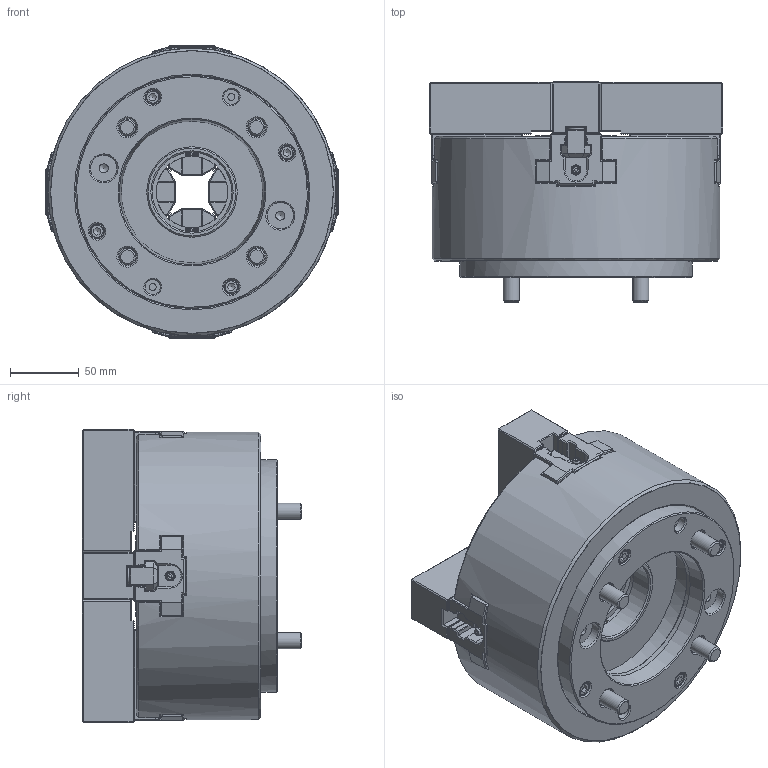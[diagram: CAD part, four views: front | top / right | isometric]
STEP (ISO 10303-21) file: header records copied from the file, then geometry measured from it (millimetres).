
FILE_DESCRIPTION(/* description */ (''),/* implementation_level */ '2;1');
FILE_NAME(/* name */ '\\Itserver\個人資料夾\柯玫如\8.網頁3D討論\1.中空油壓系列\1-1中空油壓夾頭\3.OPF系列\OPF-208\OPF-208-A6.stp',/* time_stamp */ '2024-08-27T08:51:41+08:00',/* author */ ('034'),/* organization */ (''),/* preprocessor_version */ 'ST-DEVELOPER v16.13',/* originating_system */ 'Autodesk Inventor 2018',/* authorisation */ '');
FILE_SCHEMA (('AUTOMOTIVE_DESIGN { 1 0 10303 214 3 1 1 }'));
Products named in the file (1): OPF-208-A6
Bounding box: 214.45 x 160.39 x 214.45 mm (x, y, z)
Volume: 3317746.8 mm3; surface area: 364233.2 mm2
Topology: 1 solids, 14 shells, 6530 faces, 21286 edges, 13574 vertices
Faces by surface type: plane 4109, cylinder 1699, bspline 414, cone 222, torus 66, sphere 20
Full cylindrical faces by diameter (mm): 3 x16, 3.8 x8, 4.3 x4, 5 x4, 5.1 x2, 5.2 x4, 5.5 x4, 6 x8, 6.6 x4, 8.6 x4, 9.5 x4, 10 x8, 10.3 x8, 11 x6, 12 x12, 13 x8, 13.5 x4, 18 x12, 19 x8, 19.3 x2, 20 x4, 52 x1, 55.5 x1, 56 x1, 56.2 x1, 58 x1, 60.5 x1, 64.8 x1, 66 x1, 103.2 x1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
Entity records: 233609 total; most frequent: CARTESIAN_POINT 48641, ORIENTED_EDGE 41552, DIRECTION 35700, EDGE_CURVE 20776, LINE 15634, VECTOR 15634, VERTEX_POINT 13408, AXIS2_PLACEMENT_3D 10033
